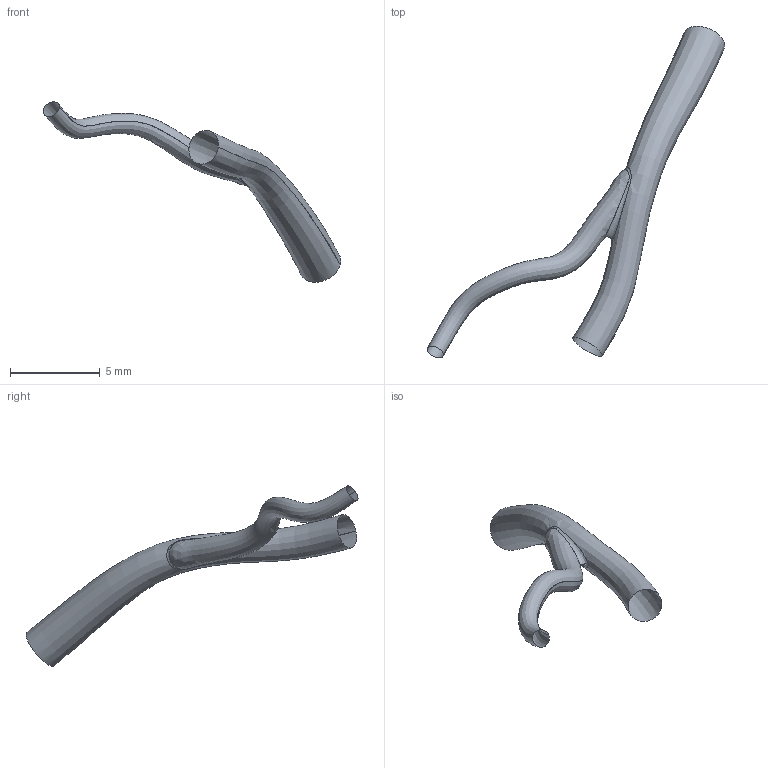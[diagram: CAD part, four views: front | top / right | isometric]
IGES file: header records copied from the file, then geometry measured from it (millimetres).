
Global section: file name: C:\Documents and Settings\Administrator\Desktop\FDA-Pig\Domestic RCA\Pig_000011\avc.ed.igs; native system: Rhinoceros ( May 19 2006 ); preprocessor: Trout Lake IGES 012 May 19 2006; date: 111205.185633; units: centimetre
Bounding box: 16.53 x 18.47 x 10.04 mm (x, y, z)
Surface area: 180.3 mm2 (no closed solid volume)
Topology: 0 solids, 0 shells, 3 faces, 52 edges, 49 vertices
Faces by surface type: bspline 3
